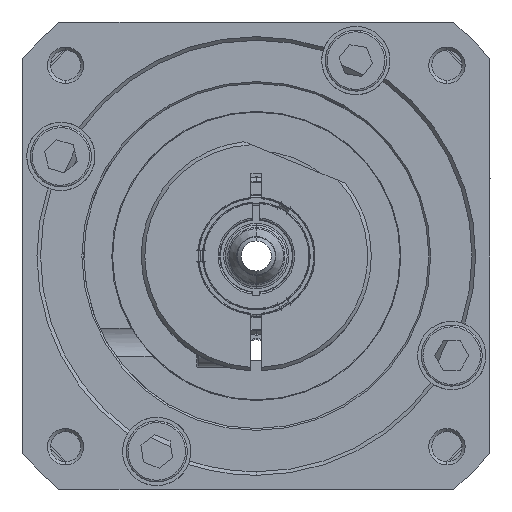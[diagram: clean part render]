
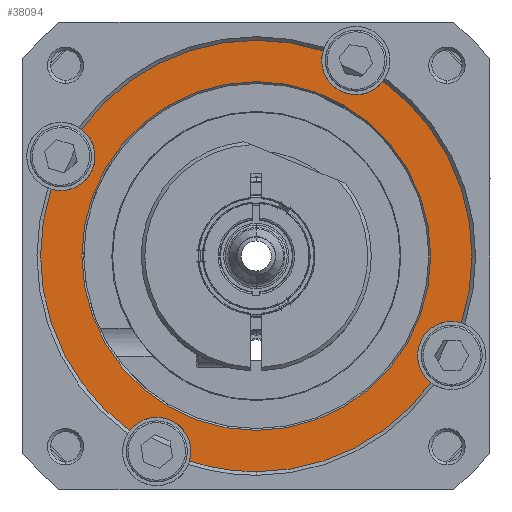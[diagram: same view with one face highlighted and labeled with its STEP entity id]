
A CAD part, left-side view. The second image highlights one B-rep face of the part: STEP entity #38094.
In plain terms, the highlighted planar face has unit normal (-1, 0, 0).
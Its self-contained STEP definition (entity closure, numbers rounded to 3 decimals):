
#77 = EDGE_CURVE ( 'NONE', #47547, #47102, #23145, .T. ) ;
#334 = DIRECTION ( 'NONE',  ( 0., 0., -1. ) ) ;
#618 = CARTESIAN_POINT ( 'NONE',  ( -124., 13.847, -27.176 ) ) ;
#676 = EDGE_CURVE ( 'NONE', #23761, #38825, #39406, .T. ) ;
#754 = AXIS2_PLACEMENT_3D ( 'NONE', #31496, #51002, #23484 ) ;
#1143 = DIRECTION ( 'NONE',  ( 0., 0., -1. ) ) ;
#2455 = VERTEX_POINT ( 'NONE', #6423 ) ;
#3050 = CARTESIAN_POINT ( 'NONE',  ( -124., -9.292, 28.525 ) ) ;
#3262 = ORIENTED_EDGE ( 'NONE', *, *, #56046, .F. ) ;
#4058 = AXIS2_PLACEMENT_3D ( 'NONE', #32656, #42186, #18273 ) ;
#4482 = CARTESIAN_POINT ( 'NONE',  ( -124., 27.176, 13.847 ) ) ;
#4570 = VERTEX_POINT ( 'NONE', #3050 ) ;
#4700 = EDGE_CURVE ( 'NONE', #4570, #47102, #50245, .T. ) ;
#5651 = VERTEX_POINT ( 'NONE', #23849 ) ;
#6011 = EDGE_LOOP ( 'NONE', ( #27347, #26316, #43369, #3262, #41541, #19062, #37274, #26555, #9255, #14065, #20325, #44433, #14225 ) ) ;
#6162 = EDGE_CURVE ( 'NONE', #5651, #21948, #10644, .T. ) ;
#6423 = CARTESIAN_POINT ( 'NONE',  ( -124., 9.292, -28.525 ) ) ;
#7024 = AXIS2_PLACEMENT_3D ( 'NONE', #51221, #21493, #30764 ) ;
#7713 = AXIS2_PLACEMENT_3D ( 'NONE', #15894, #21006, #1143 ) ;
#8303 = CIRCLE ( 'NONE', #57345, 24.25 ) ;
#9255 = ORIENTED_EDGE ( 'NONE', *, *, #54143, .T. ) ;
#9403 = VERTEX_POINT ( 'NONE', #58569 ) ;
#10644 = CIRCLE ( 'NONE', #60656, 24.25 ) ;
#11008 = ORIENTED_EDGE ( 'NONE', *, *, #45292, .T. ) ;
#11437 = CARTESIAN_POINT ( 'NONE',  ( -124., 0., 0. ) ) ;
#11741 = DIRECTION ( 'NONE',  ( 1., 0., 0. ) ) ;
#11823 = DIRECTION ( 'NONE',  ( 0., 0., -1. ) ) ;
#11917 = EDGE_CURVE ( 'NONE', #50516, #9403, #60018, .T. ) ;
#14065 = ORIENTED_EDGE ( 'NONE', *, *, #61049, .F. ) ;
#14225 = ORIENTED_EDGE ( 'NONE', *, *, #676, .F. ) ;
#14618 = VERTEX_POINT ( 'NONE', #45456 ) ;
#14912 = DIRECTION ( 'NONE',  ( -1., 0., 0. ) ) ;
#15218 = DIRECTION ( 'NONE',  ( 0., 0., -1. ) ) ;
#15552 = CARTESIAN_POINT ( 'NONE',  ( -124., 0., 0. ) ) ;
#15813 = CARTESIAN_POINT ( 'NONE',  ( -124., 27.176, 9.097 ) ) ;
#15894 = CARTESIAN_POINT ( 'NONE',  ( -124., -13.847, 27.176 ) ) ;
#16372 = DIRECTION ( 'NONE',  ( 0., 0., -1. ) ) ;
#16861 = DIRECTION ( 'NONE',  ( 0., 0., -1. ) ) ;
#17647 = CARTESIAN_POINT ( 'NONE',  ( -124., -13.847, 22.426 ) ) ;
#18126 = CIRCLE ( 'NONE', #60821, 4.75 ) ;
#18273 = DIRECTION ( 'NONE',  ( 0., 0., -1. ) ) ;
#19062 = ORIENTED_EDGE ( 'NONE', *, *, #20635, .F. ) ;
#19213 = AXIS2_PLACEMENT_3D ( 'NONE', #35393, #55519, #35081 ) ;
#20325 = ORIENTED_EDGE ( 'NONE', *, *, #50340, .F. ) ;
#20556 = CARTESIAN_POINT ( 'NONE',  ( -124., -24.284, -17.615 ) ) ;
#20635 = EDGE_CURVE ( 'NONE', #14618, #9403, #42557, .T. ) ;
#20795 = DIRECTION ( 'NONE',  ( -1., 0., 0. ) ) ;
#21006 = DIRECTION ( 'NONE',  ( -1., 0., 0. ) ) ;
#21146 = AXIS2_PLACEMENT_3D ( 'NONE', #618, #45376, #59480 ) ;
#21164 = CARTESIAN_POINT ( 'NONE',  ( -124., 27.176, 13.847 ) ) ;
#21493 = DIRECTION ( 'NONE',  ( -1., 0., 0. ) ) ;
#21844 = CIRCLE ( 'NONE', #47333, 30. ) ;
#21948 = VERTEX_POINT ( 'NONE', #35848 ) ;
#22365 = DIRECTION ( 'NONE',  ( 0., 0., -1. ) ) ;
#22684 = AXIS2_PLACEMENT_3D ( 'NONE', #54211, #29579, #15218 ) ;
#22686 = VERTEX_POINT ( 'NONE', #40320 ) ;
#22840 = EDGE_CURVE ( 'NONE', #2455, #14618, #31683, .T. ) ;
#23145 = CIRCLE ( 'NONE', #45547, 4.75 ) ;
#23246 = VERTEX_POINT ( 'NONE', #28684 ) ;
#23484 = DIRECTION ( 'NONE',  ( 0., 0., -1. ) ) ;
#23761 = VERTEX_POINT ( 'NONE', #17647 ) ;
#23849 = CARTESIAN_POINT ( 'NONE',  ( -124., 0., -24.25 ) ) ;
#25217 = AXIS2_PLACEMENT_3D ( 'NONE', #46603, #27126, #22365 ) ;
#26316 = ORIENTED_EDGE ( 'NONE', *, *, #4700, .T. ) ;
#26555 = ORIENTED_EDGE ( 'NONE', *, *, #27792, .T. ) ;
#26750 = AXIS2_PLACEMENT_3D ( 'NONE', #4482, #29765, #334 ) ;
#27126 = DIRECTION ( 'NONE',  ( -1., 0., 0. ) ) ;
#27347 = ORIENTED_EDGE ( 'NONE', *, *, #62397, .F. ) ;
#27590 = DIRECTION ( 'NONE',  ( 0., 0., -1. ) ) ;
#27792 = EDGE_CURVE ( 'NONE', #2455, #57091, #21844, .T. ) ;
#28357 = CIRCLE ( 'NONE', #754, 4.75 ) ;
#28684 = CARTESIAN_POINT ( 'NONE',  ( -124., -27.176, -9.097 ) ) ;
#29579 = DIRECTION ( 'NONE',  ( -1., 0., 0. ) ) ;
#29765 = DIRECTION ( 'NONE',  ( -1., 0., 0. ) ) ;
#30764 = DIRECTION ( 'NONE',  ( 0., 0., -1. ) ) ;
#31496 = CARTESIAN_POINT ( 'NONE',  ( -124., -27.176, -13.847 ) ) ;
#31675 = AXIS2_PLACEMENT_3D ( 'NONE', #41941, #47382, #27590 ) ;
#31683 = CIRCLE ( 'NONE', #4058, 4.75 ) ;
#31764 = DIRECTION ( 'NONE',  ( 1., 0., 0. ) ) ;
#32656 = CARTESIAN_POINT ( 'NONE',  ( -124., 13.847, -27.176 ) ) ;
#33890 = ORIENTED_EDGE ( 'NONE', *, *, #6162, .T. ) ;
#34522 = VERTEX_POINT ( 'NONE', #20556 ) ;
#35081 = DIRECTION ( 'NONE',  ( 0., 0., -1. ) ) ;
#35185 = CARTESIAN_POINT ( 'NONE',  ( -124., -27.176, -13.847 ) ) ;
#35393 = CARTESIAN_POINT ( 'NONE',  ( -124., 0., 0. ) ) ;
#35744 = CIRCLE ( 'NONE', #31675, 30. ) ;
#35848 = CARTESIAN_POINT ( 'NONE',  ( -124., 0., 24.25 ) ) ;
#36017 = CARTESIAN_POINT ( 'NONE',  ( -124., 24.284, 17.615 ) ) ;
#36161 = CARTESIAN_POINT ( 'NONE',  ( -124., -17.615, 24.284 ) ) ;
#36670 = CIRCLE ( 'NONE', #7024, 30. ) ;
#37274 = ORIENTED_EDGE ( 'NONE', *, *, #22840, .F. ) ;
#37392 = CARTESIAN_POINT ( 'NONE',  ( -124., 28.525, 9.292 ) ) ;
#38094 = ADVANCED_FACE ( 'NONE', ( #50829, #56236 ), #55004, .T. ) ;
#38744 = EDGE_CURVE ( 'NONE', #22686, #38825, #35744, .T. ) ;
#38825 = VERTEX_POINT ( 'NONE', #36161 ) ;
#39406 = CIRCLE ( 'NONE', #7713, 4.75 ) ;
#40271 = DIRECTION ( 'NONE',  ( 0., 0., -1. ) ) ;
#40320 = CARTESIAN_POINT ( 'NONE',  ( -124., -28.525, -9.292 ) ) ;
#40696 = CARTESIAN_POINT ( 'NONE',  ( -124., 0., 0. ) ) ;
#40877 = CARTESIAN_POINT ( 'NONE',  ( -124., 0., 0. ) ) ;
#41541 = ORIENTED_EDGE ( 'NONE', *, *, #11917, .T. ) ;
#41941 = CARTESIAN_POINT ( 'NONE',  ( -124., 0., 0. ) ) ;
#42186 = DIRECTION ( 'NONE',  ( -1., 0., 0. ) ) ;
#42557 = CIRCLE ( 'NONE', #21146, 4.75 ) ;
#43369 = ORIENTED_EDGE ( 'NONE', *, *, #77, .F. ) ;
#44433 = ORIENTED_EDGE ( 'NONE', *, *, #38744, .T. ) ;
#44934 = DIRECTION ( 'NONE',  ( 0., 0., -1. ) ) ;
#45292 = EDGE_CURVE ( 'NONE', #21948, #5651, #8303, .T. ) ;
#45376 = DIRECTION ( 'NONE',  ( -1., 0., 0. ) ) ;
#45456 = CARTESIAN_POINT ( 'NONE',  ( -124., 13.847, -22.426 ) ) ;
#45547 = AXIS2_PLACEMENT_3D ( 'NONE', #21164, #60142, #16372 ) ;
#46603 = CARTESIAN_POINT ( 'NONE',  ( -124., -13.847, 27.176 ) ) ;
#46627 = CIRCLE ( 'NONE', #25217, 4.75 ) ;
#47102 = VERTEX_POINT ( 'NONE', #36017 ) ;
#47333 = AXIS2_PLACEMENT_3D ( 'NONE', #15552, #14912, #44934 ) ;
#47382 = DIRECTION ( 'NONE',  ( -1., 0., 0. ) ) ;
#47547 = VERTEX_POINT ( 'NONE', #15813 ) ;
#50167 = EDGE_LOOP ( 'NONE', ( #33890, #11008 ) ) ;
#50245 = CIRCLE ( 'NONE', #22684, 30. ) ;
#50340 = EDGE_CURVE ( 'NONE', #22686, #23246, #18126, .T. ) ;
#50516 = VERTEX_POINT ( 'NONE', #37392 ) ;
#50829 = FACE_OUTER_BOUND ( 'NONE', #6011, .T. ) ;
#51002 = DIRECTION ( 'NONE',  ( -1., 0., 0. ) ) ;
#51221 = CARTESIAN_POINT ( 'NONE',  ( -124., 0., 0. ) ) ;
#54143 = EDGE_CURVE ( 'NONE', #57091, #34522, #36670, .T. ) ;
#54211 = CARTESIAN_POINT ( 'NONE',  ( -124., 0., 0. ) ) ;
#55004 = PLANE ( 'NONE',  #61183 ) ;
#55095 = CARTESIAN_POINT ( 'NONE',  ( -124., 0., -30. ) ) ;
#55519 = DIRECTION ( 'NONE',  ( -1., 0., 0. ) ) ;
#55627 = DIRECTION ( 'NONE',  ( -1., 0., 0. ) ) ;
#56046 = EDGE_CURVE ( 'NONE', #50516, #47547, #57351, .T. ) ;
#56236 = FACE_BOUND ( 'NONE', #50167, .T. ) ;
#57091 = VERTEX_POINT ( 'NONE', #55095 ) ;
#57345 = AXIS2_PLACEMENT_3D ( 'NONE', #40696, #31764, #61144 ) ;
#57351 = CIRCLE ( 'NONE', #26750, 4.75 ) ;
#58569 = CARTESIAN_POINT ( 'NONE',  ( -124., 17.615, -24.284 ) ) ;
#59480 = DIRECTION ( 'NONE',  ( 0., 0., -1. ) ) ;
#60018 = CIRCLE ( 'NONE', #19213, 30. ) ;
#60142 = DIRECTION ( 'NONE',  ( -1., 0., 0. ) ) ;
#60656 = AXIS2_PLACEMENT_3D ( 'NONE', #11437, #11741, #16861 ) ;
#60821 = AXIS2_PLACEMENT_3D ( 'NONE', #35185, #55627, #11823 ) ;
#61049 = EDGE_CURVE ( 'NONE', #23246, #34522, #28357, .T. ) ;
#61144 = DIRECTION ( 'NONE',  ( 0., 0., -1. ) ) ;
#61183 = AXIS2_PLACEMENT_3D ( 'NONE', #40877, #20795, #40271 ) ;
#62397 = EDGE_CURVE ( 'NONE', #4570, #23761, #46627, .T. ) ;
